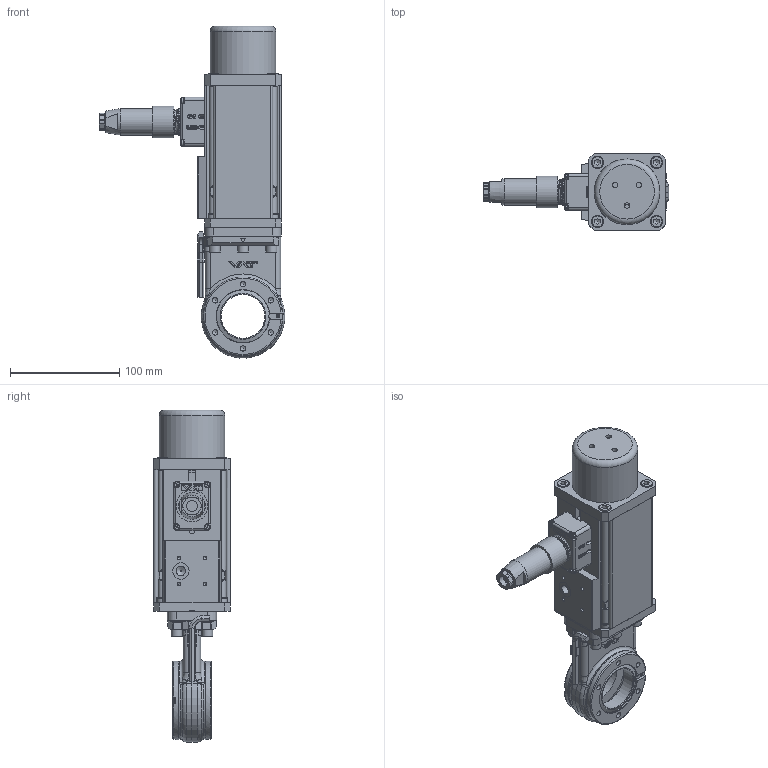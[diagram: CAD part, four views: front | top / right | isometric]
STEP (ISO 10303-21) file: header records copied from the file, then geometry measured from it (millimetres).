
FILE_DESCRIPTION(/* description */ (''),/* implementation_level */ '2;1');
FILE_NAME(/* name */ '1367940130_203.stp',/* time_stamp */ '2022-07-25T13:15:35+02:00',/* author */ (''),/* organization */ (''),/* preprocessor_version */ 'ST-DEVELOPER v18.1',/* originating_system */ 'SIEMENS PLM Software NX 1973',/* authorisation */ '');
FILE_SCHEMA (('AP203_CONFIGURATION_CONTROLLED_3D_DESIGN_OF_MECHANICAL_PARTS_AND_ASSEMBLIES_MIM_LF { 1 0 10303 403 2 1 2}'));
Length unit declared in the file: millimetre
Products named in the file (34): 63150-01_36292ID; 63150-01_36301ID; 63152-01.4_36350ID; 69672-01; 69252-01_36323ID; 69252-01_36315ID; 70687-01.2; 92410-01; 69852-01; 63172-01; 69846-01; n-8504-002; 723790; n-6134-408; 70708-01.1; 70709-01.1; 70701-01.1; 72771-01.1; 224809.1; 68156-01.1; 69968-01.1; 73280-01_1.1; 228772.1; 318865_MODEL; 63170-r1_MODEL; 777485_NX-ARRAGMNTMassbild; 777483_NX-ARRAGMNTZUSAMMENSTELLUNG; 777482_NX-ARRAGMNTArrangement 1; 777481_NX-ARRAGMNTassembly; 777663_NX-ARRAGMNTArrangement 1; 777465_NX-ARRAGMNTMassbild; 777439_NX-ARRAGMNTMassbild; 777660_NX-ARRAGMNTMassbild; 317798
Assembly tree (54 placements, depth 5):
  317798
    777660_NX-ARRAGMNTMassbild
      68156-01.1  x4
      224809.1  x4
      72771-01.1  x4
      70701-01.1
      70709-01.1
      70708-01.1
      n-6134-408  x4
      777439_NX-ARRAGMNTMassbild
        777465_NX-ARRAGMNTMassbild
          63152-01.4_36350ID
      777663_NX-ARRAGMNTArrangement 1
        70687-01.2
    228772.1  x6
    73280-01_1.1
    69968-01.1
    777481_NX-ARRAGMNTassembly
      723790  x4
      777482_NX-ARRAGMNTArrangement 1
        69252-01_36315ID
        69252-01_36323ID
      n-8504-002
      777483_NX-ARRAGMNTZUSAMMENSTELLUNG
        69672-01
      69846-01
    777485_NX-ARRAGMNTMassbild
      63172-01
      69852-01
      63170-r1_MODEL
        318865_MODEL
          63150-01_36301ID
          63150-01_36292ID
      92410-01  x2
Bounding box: 169.67 x 70 x 303.61 mm (x, y, z)
Volume: 483526.7 mm3; surface area: 232940.7 mm2
Topology: 64 solids, 64 shells, 1749 faces, 4285 edges, 2808 vertices
Faces by surface type: plane 1046, cylinder 433, extrusion 82, cone 79, bspline 62, torus 47
Full cylindrical faces by diameter (mm): 1.5 x1, 1.66 x7, 1.95 x4, 2.25 x4, 2.5 x4, 2.693 x4, 3 x4, 3.3 x8, 3.4 x6, 4.4 x8, 4.96 x10, 5 x33, 6 x38, 6.2 x10, 6.4 x4, 6.475 x4, 7.982 x4, 8.2 x4, 8.566 x1, 9.989 x4, 10 x11, 10.008 x1, 10.012 x4, 11 x4, 11.35 x4, 13.3 x1, 13.85 x1, 14.9 x1, 15 x1, 17.55 x1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
Entity records: 50587 total; most frequent: CARTESIAN_POINT 14769, ORIENTED_EDGE 6466, DIRECTION 6000, EDGE_CURVE 3233, VERTEX_POINT 2249, AXIS2_PLACEMENT_3D 2056, VECTOR 1888, LINE 1808
